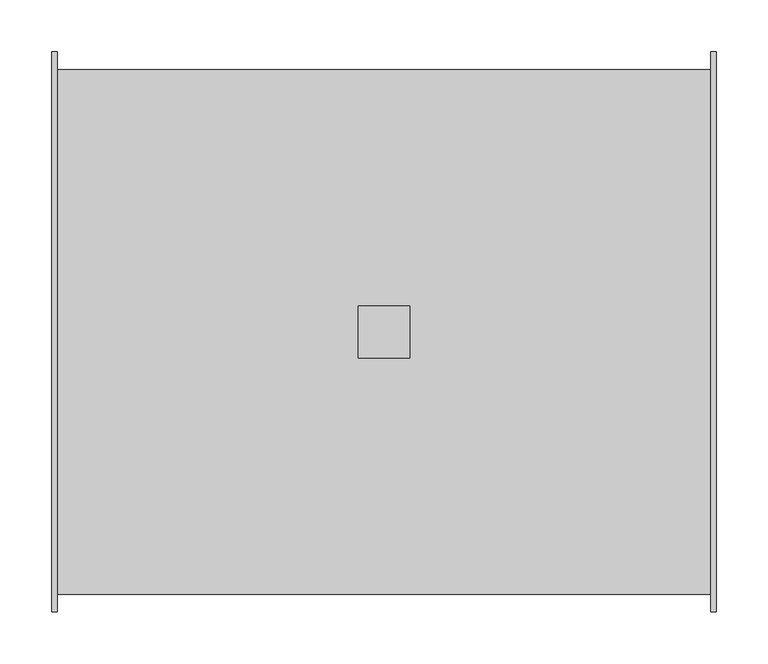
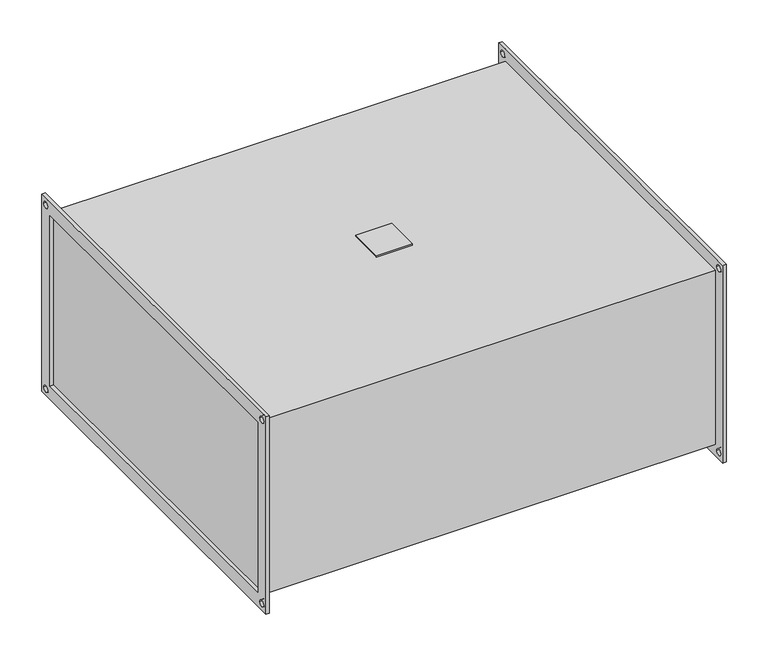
"""IFC4 building model written with IfcOpenShell, lengths in millimetres: damper geometry, KORF_Фильтр_Карманный_FKR : FKR 50-25  EU3."""

from ifc_helpers import new_model, si_unit, point, frame, frame_2d, origin, place, context, project, spatial, polyline, circle_curve, trimmed, segment, composite_curve, outline, extrude, source, transform, mapped, element, save


def damper_6339f878(model_context):
    return source(origin(), model_context, "Body", "SweptSolid", [
        extrude(outline(polyline([(295.0, -25.0), (295.0, 25.0), (345.0, 25.0), (345.0, -25.0), (295.0, -25.0)])), frame((0.0, 0.0, 128.0), z_axis=(0.0, 0.0, 1.0), x_axis=(1.0, 0.0, 0.0)), (0.0, 0.0, 1.0), 2.0),
        extrude(outline(polyline([(-270.0, 145.0), (270.0, 145.0), (270.0, -145.0), (-270.0, -145.0), (-270.0, 145.0)]), holes=[polyline([(-250.0, 125.0), (-250.0, -125.0), (250.0, -125.0), (250.0, 125.0), (-250.0, 125.0)]), composite_curve([segment(trimmed(circle_curve(frame_2d((260.0, 135.0)), 4.5), [point((255.5, 135.0))], [point((264.5, 135.0))], True, "CARTESIAN"), True, "CONTINUOUS"), segment(trimmed(circle_curve(frame_2d((260.0, 135.0)), 4.5), [point((264.5, 135.0))], [point((255.5, 135.0))], True, "CARTESIAN"), True, "CONTINUOUS")], self_intersect=False), composite_curve([segment(trimmed(circle_curve(frame_2d((-260.0, 135.0)), 4.5), [point((-264.5, 135.0))], [point((-255.5, 135.0))], True, "CARTESIAN"), True, "CONTINUOUS"), segment(trimmed(circle_curve(frame_2d((-260.0, 135.0)), 4.5), [point((-255.5, 135.0))], [point((-264.5, 135.0))], True, "CARTESIAN"), True, "CONTINUOUS")], self_intersect=False), composite_curve([segment(trimmed(circle_curve(frame_2d((-260.0, -135.0)), 4.5), [point((-264.5, -135.0))], [point((-255.5, -135.0))], True, "CARTESIAN"), True, "CONTINUOUS"), segment(trimmed(circle_curve(frame_2d((-260.0, -135.0)), 4.5), [point((-255.5, -135.0))], [point((-264.5, -135.0))], True, "CARTESIAN"), True, "CONTINUOUS")], self_intersect=False), composite_curve([segment(trimmed(circle_curve(frame_2d((260.0, -135.0)), 4.5), [point((255.5, -135.0))], [point((264.5, -135.0))], True, "CARTESIAN"), True, "CONTINUOUS"), segment(trimmed(circle_curve(frame_2d((260.0, -135.0)), 4.5), [point((264.5, -135.0))], [point((255.5, -135.0))], True, "CARTESIAN"), True, "CONTINUOUS")], self_intersect=False)]), frame((635.0, 0.0, 0.0), z_axis=(1.0, 0.0, 0.0), x_axis=(0.0, 1.0, 0.0)), (0.0, 0.0, 1.0), 5.0),
        extrude(outline(polyline([(-270.0, 145.0), (270.0, 145.0), (270.0, -145.0), (-270.0, -145.0), (-270.0, 145.0)]), holes=[polyline([(-250.0, 125.0), (-250.0, -125.0), (250.0, -125.0), (250.0, 125.0), (-250.0, 125.0)]), composite_curve([segment(trimmed(circle_curve(frame_2d((260.0, 135.0)), 4.5), [point((255.5, 135.0))], [point((264.5, 135.0))], True, "CARTESIAN"), True, "CONTINUOUS"), segment(trimmed(circle_curve(frame_2d((260.0, 135.0)), 4.5), [point((264.5, 135.0))], [point((255.5, 135.0))], True, "CARTESIAN"), True, "CONTINUOUS")], self_intersect=False), composite_curve([segment(trimmed(circle_curve(frame_2d((-260.0, 135.0)), 4.5), [point((-264.5, 135.0))], [point((-255.5, 135.0))], True, "CARTESIAN"), True, "CONTINUOUS"), segment(trimmed(circle_curve(frame_2d((-260.0, 135.0)), 4.5), [point((-255.5, 135.0))], [point((-264.5, 135.0))], True, "CARTESIAN"), True, "CONTINUOUS")], self_intersect=False), composite_curve([segment(trimmed(circle_curve(frame_2d((-260.0, -135.0)), 4.5), [point((-264.5, -135.0))], [point((-255.5, -135.0))], True, "CARTESIAN"), True, "CONTINUOUS"), segment(trimmed(circle_curve(frame_2d((-260.0, -135.0)), 4.5), [point((-255.5, -135.0))], [point((-264.5, -135.0))], True, "CARTESIAN"), True, "CONTINUOUS")], self_intersect=False), composite_curve([segment(trimmed(circle_curve(frame_2d((260.0, -135.0)), 4.5), [point((255.5, -135.0))], [point((264.5, -135.0))], True, "CARTESIAN"), True, "CONTINUOUS"), segment(trimmed(circle_curve(frame_2d((260.0, -135.0)), 4.5), [point((264.5, -135.0))], [point((255.5, -135.0))], True, "CARTESIAN"), True, "CONTINUOUS")], self_intersect=False)]), frame((0.0, 0.0, 0.0), z_axis=(1.0, 0.0, 0.0), x_axis=(0.0, 1.0, 0.0)), (0.0, 0.0, 1.0), 5.0),
        extrude(outline(polyline([(635.0, 253.0), (635.0, -253.0), (5.0, -253.0), (5.0, 253.0), (635.0, 253.0)])), frame((0.0, 0.0, -128.0), z_axis=(0.0, 0.0, 1.0), x_axis=(1.0, 0.0, 0.0)), (0.0, 0.0, 1.0), 256.0),
    ])


if __name__ == "__main__":
    model = new_model("IFC4")
    model_context = context("Model", 3, world=origin())
    ifc_project = project(units=[si_unit("LENGTHUNIT", "METRE", prefix="MILLI")], contexts=[model_context])
    site = spatial("IfcSite", under=ifc_project)
    building = spatial("IfcBuilding", under=site)
    placement = place(None, origin())
    damper_shape = damper_6339f878(model_context)
    element("IfcDamper", 1, ObjectType="KORF_Фильтр_Карманный_FKR : FKR 50-25  EU3", at=placement, inside=building, context=model_context, shape_type="MappedRepresentation", body=[
        mapped(damper_shape, transform((0.0, 0.0, 0.0), x_axis=(1.0, 0.0, 0.0), y_axis=(0.0, 1.0, 0.0), z_axis=(0.0, 0.0, 1.0))),
    ])
    save(model, "model.ifc")
